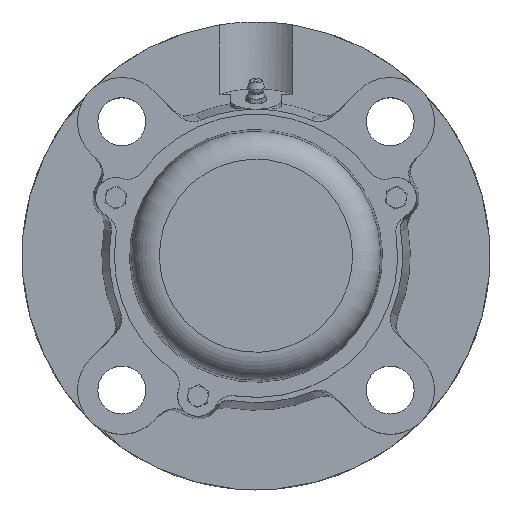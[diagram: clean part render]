
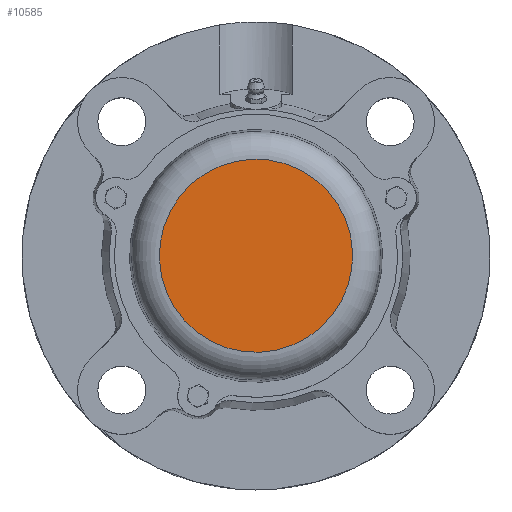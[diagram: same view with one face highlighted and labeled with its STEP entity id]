
A CAD part, top view. The second image highlights one B-rep face of the part: STEP entity #10585.
In plain terms, the highlighted planar face has unit normal (0, 0, 1).
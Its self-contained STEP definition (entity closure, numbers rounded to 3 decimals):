
#10554=CARTESIAN_POINT('',(-38.194,0.0,29.));
#10555=VERTEX_POINT('',#10554);
#10556=CARTESIAN_POINT('',(0.0,0.0,29.));
#10557=DIRECTION('',(0.0,0.0,-1.0));
#10558=DIRECTION('',(1.0,0.0,0.0));
#10559=AXIS2_PLACEMENT_3D('',#10556,#10557,#10558);
#10560=CIRCLE('',#10559,38.194);
#10561=EDGE_CURVE('',#10555,#10555,#10560,.T.);
#10577=CARTESIAN_POINT('',(0.0,0.0,29.));
#10578=DIRECTION('',(0.0,0.0,-1.0));
#10579=DIRECTION('',(-1.0,0.0,0.0));
#10580=AXIS2_PLACEMENT_3D('',#10577,#10578,#10579);
#10581=PLANE('',#10580);
#10582=ORIENTED_EDGE('',*,*,#10561,.F.);
#10583=EDGE_LOOP('',(#10582));
#10584=FACE_OUTER_BOUND('',#10583,.T.);
#10585=ADVANCED_FACE('',(#10584),#10581,.F.);
